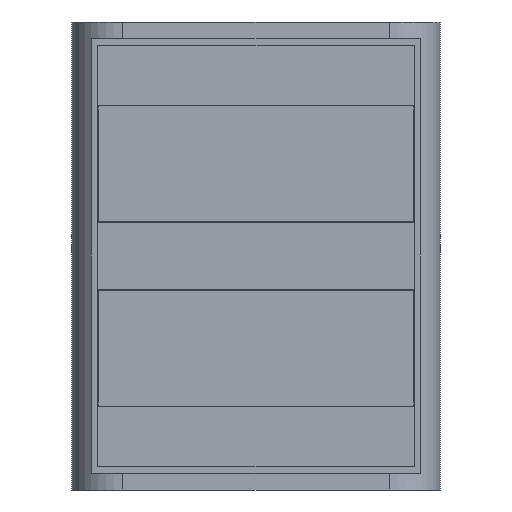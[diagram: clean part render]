
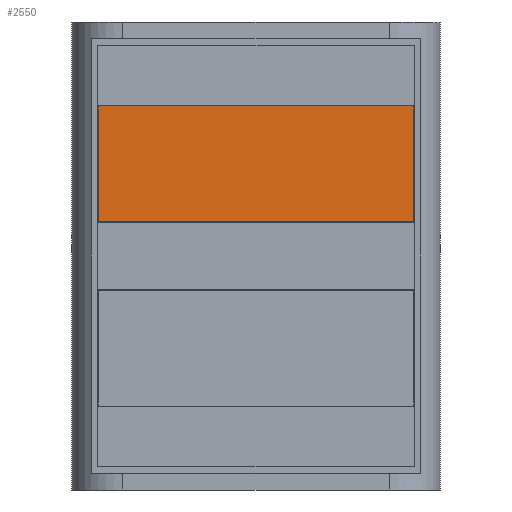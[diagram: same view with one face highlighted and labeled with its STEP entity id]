
A CAD part, front view. The second image highlights one B-rep face of the part: STEP entity #2550.
In plain terms, the highlighted planar face has unit normal (0, -1, 0).
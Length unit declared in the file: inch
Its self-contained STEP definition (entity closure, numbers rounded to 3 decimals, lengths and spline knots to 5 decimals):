
#2218=CARTESIAN_POINT('',(1.8525,-0.365,0.403));
#2219=VERTEX_POINT('',#2218);
#2252=CARTESIAN_POINT('',(1.8525,-0.365,1.763));
#2253=VERTEX_POINT('',#2252);
#2278=CARTESIAN_POINT('',(-1.8525,-0.365,0.403));
#2279=VERTEX_POINT('',#2278);
#2312=CARTESIAN_POINT('',(-1.8525,-0.365,1.763));
#2313=VERTEX_POINT('',#2312);
#2337=CARTESIAN_POINT('',(-1.8525,-0.365,0.403));
#2338=DIRECTION('',(0.0,0.0,1.0));
#2339=VECTOR('',#2338,1.36);
#2340=LINE('',#2337,#2339);
#2341=EDGE_CURVE('',#2279,#2313,#2340,.T.);
#2359=CARTESIAN_POINT('',(-1.8525,-0.365,1.763));
#2360=DIRECTION('',(1.0,0.0,0.0));
#2361=VECTOR('',#2360,3.705);
#2362=LINE('',#2359,#2361);
#2363=EDGE_CURVE('',#2313,#2253,#2362,.T.);
#2398=CARTESIAN_POINT('',(1.8525,-0.365,0.403));
#2399=DIRECTION('',(-1.0,0.0,0.0));
#2400=VECTOR('',#2399,3.705);
#2401=LINE('',#2398,#2400);
#2402=EDGE_CURVE('',#2219,#2279,#2401,.T.);
#2420=CARTESIAN_POINT('',(1.8525,-0.365,1.763));
#2421=DIRECTION('',(0.0,0.0,-1.0));
#2422=VECTOR('',#2421,1.36);
#2423=LINE('',#2420,#2422);
#2424=EDGE_CURVE('',#2253,#2219,#2423,.T.);
#2539=CARTESIAN_POINT('',(0.,-0.365,1.083));
#2540=DIRECTION('',(0.0,1.0,0.0));
#2541=DIRECTION('',(0.0,0.0,1.0));
#2542=AXIS2_PLACEMENT_3D('',#2539,#2540,#2541);
#2543=PLANE('',#2542);
#2544=ORIENTED_EDGE('',*,*,#2341,.F.);
#2545=ORIENTED_EDGE('',*,*,#2402,.F.);
#2546=ORIENTED_EDGE('',*,*,#2424,.F.);
#2547=ORIENTED_EDGE('',*,*,#2363,.F.);
#2548=EDGE_LOOP('',(#2544,#2545,#2546,#2547));
#2549=FACE_OUTER_BOUND('',#2548,.T.);
#2550=ADVANCED_FACE('',(#2549),#2543,.F.);
